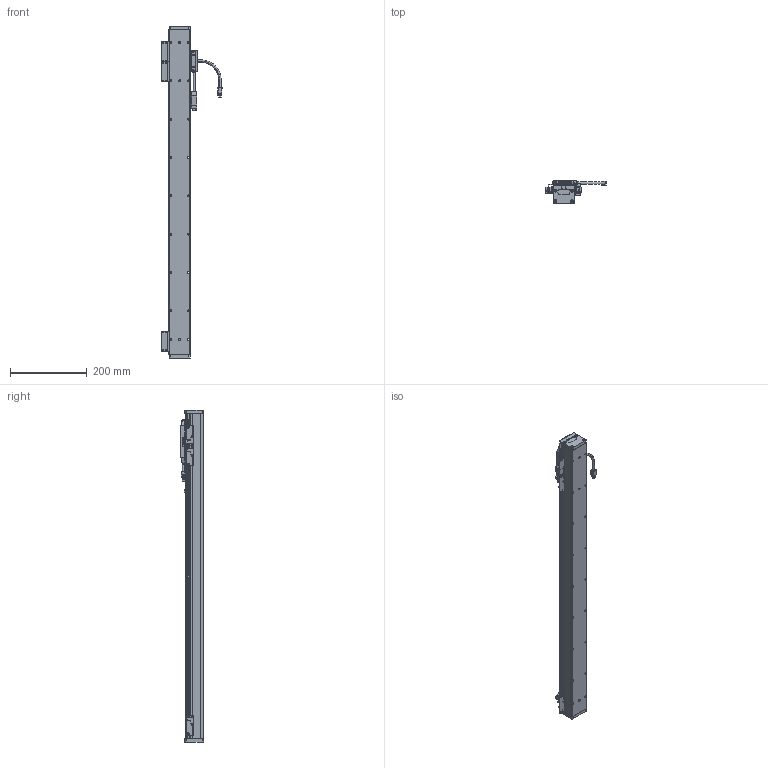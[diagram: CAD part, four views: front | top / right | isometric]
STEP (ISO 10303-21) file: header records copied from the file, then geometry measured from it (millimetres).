
FILE_DESCRIPTION(('Open CASCADE Model'),'2;1');
FILE_NAME('Open CASCADE Shape Model','2025-11-07T00:51:10',('Author'),( 'Open CASCADE'),'Open CASCADE STEP processor 7.6','Open CASCADE 7.6' ,'Unknown');
FILE_SCHEMA(('AUTOMOTIVE_DESIGN { 1 0 10303 214 1 1 1 1 }'));
Length unit declared in the file: millimetre
Products named in the file (25): Open CASCADE STEP translator 7.6 49; Open CASCADE STEP translator 7.6 49.1; Open CASCADE STEP translator 7.6 49.2; Open CASCADE STEP translator 7.6 49.3; Open CASCADE STEP translator 7.6 49.4; Open CASCADE STEP translator 7.6 49.5; Open CASCADE STEP translator 7.6 49.6; Open CASCADE STEP translator 7.6 49.7; Open CASCADE STEP translator 7.6 49.8; Open CASCADE STEP translator 7.6 49.9; Open CASCADE STEP translator 7.6 49.10; Open CASCADE STEP translator 7.6 49.11; Open CASCADE STEP translator 7.6 49.12; Open CASCADE STEP translator 7.6 49.13; Open CASCADE STEP translator 7.6 49.14; Open CASCADE STEP translator 7.6 49.14.1; Open CASCADE STEP translator 7.6 49.14.1.1; Open CASCADE STEP translator 7.6 49.14.1.2; Open CASCADE STEP translator 7.6 49.14.1.3; Open CASCADE STEP translator 7.6 49.14.1.4; Open CASCADE STEP translator 7.6 49.14.1.5; Open CASCADE STEP translator 7.6 49.15; Open CASCADE STEP translator 7.6 49.16; Open CASCADE STEP translator 7.6 49.17; Open CASCADE STEP translator 7.6 49.18
Assembly tree (24 placements, depth 4):
  Open CASCADE STEP translator 7.6 49
    Open CASCADE STEP translator 7.6 49.1
    Open CASCADE STEP translator 7.6 49.2
    Open CASCADE STEP translator 7.6 49.3
    Open CASCADE STEP translator 7.6 49.4
    Open CASCADE STEP translator 7.6 49.5
    Open CASCADE STEP translator 7.6 49.6
    Open CASCADE STEP translator 7.6 49.7
    Open CASCADE STEP translator 7.6 49.8
    Open CASCADE STEP translator 7.6 49.9
    Open CASCADE STEP translator 7.6 49.10
    Open CASCADE STEP translator 7.6 49.11
    Open CASCADE STEP translator 7.6 49.12
    Open CASCADE STEP translator 7.6 49.13
    Open CASCADE STEP translator 7.6 49.14
      Open CASCADE STEP translator 7.6 49.14.1
        Open CASCADE STEP translator 7.6 49.14.1.1
        Open CASCADE STEP translator 7.6 49.14.1.2
        Open CASCADE STEP translator 7.6 49.14.1.3
        Open CASCADE STEP translator 7.6 49.14.1.4
        Open CASCADE STEP translator 7.6 49.14.1.5
    Open CASCADE STEP translator 7.6 49.15
    Open CASCADE STEP translator 7.6 49.16
    Open CASCADE STEP translator 7.6 49.17
    Open CASCADE STEP translator 7.6 49.18
Bounding box: 158 x 60 x 866 mm (x, y, z)
Volume: 2340002.7 mm3; surface area: 307172 mm2
Topology: 22 solids, 23 shells, 1899 faces, 4737 edges, 3000 vertices
Faces by surface type: plane 983, cylinder 704, bspline 112, cone 84, torus 16
Entity records: 145174 total; most frequent: CARTESIAN_POINT 52081, DIRECTION 17046, LINE 10439, VECTOR 10439, ORIENTED_EDGE 9340, PCURVE 9340, DEFINITIONAL_REPRESENTATION 9340, EDGE_CURVE 4670
